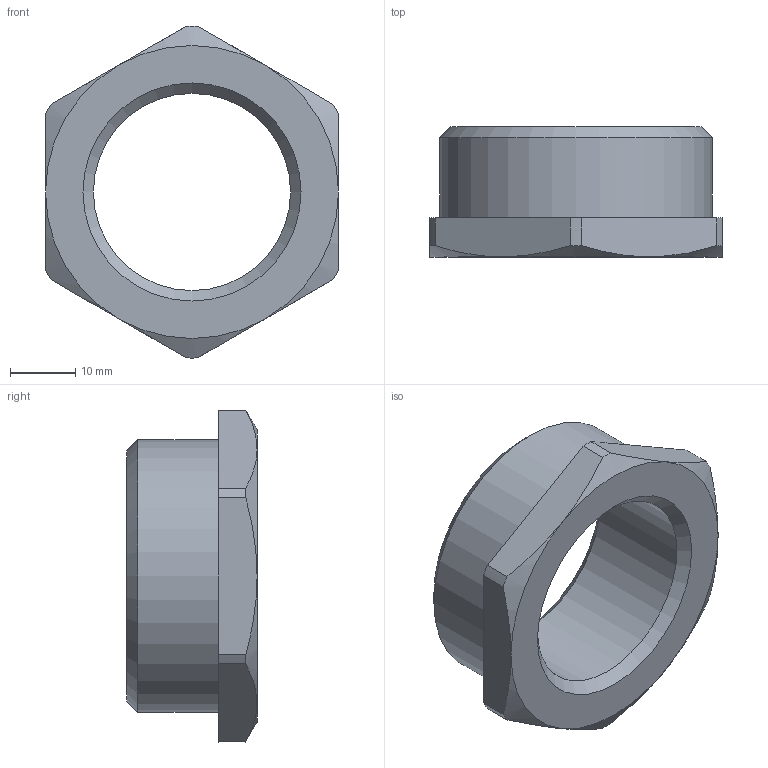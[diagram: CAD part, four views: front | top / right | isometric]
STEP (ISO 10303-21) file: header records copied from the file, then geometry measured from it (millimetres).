
FILE_DESCRIPTION(('STEP AP203'), '1');
FILE_NAME('ÂÐ.753128.034 - VTr.581.N.0706 Ôèò. ðåçüá', '2024-07-04T13:28:50', ('Boss'), (''), 'C3D Converter', 'C3D Toolkit', '');
FILE_SCHEMA(('CONFIG_CONTROL_DESIGN'));
Length unit declared in the file: millimetre
Products named in the file (1): ВР.753128.034
Bounding box: 45 x 20 x 51 mm (x, y, z)
Volume: 14875.2 mm3; surface area: 6348.7 mm2
Topology: 1 solids, 1 shells, 23 faces, 54 edges, 34 vertices
Faces by surface type: plane 9, cylinder 8, cone 6
Full cylindrical faces by diameter (mm): 30.292 x1, 41.91 x1
Entity records: 968 total; most frequent: CARTESIAN_POINT 421, DIRECTION 110, ORIENTED_EDGE 98, EDGE_CURVE 49, AXIS2_PLACEMENT_3D 46, VERTEX_POINT 34, EDGE_LOOP 31, ADVANCED_FACE 23
